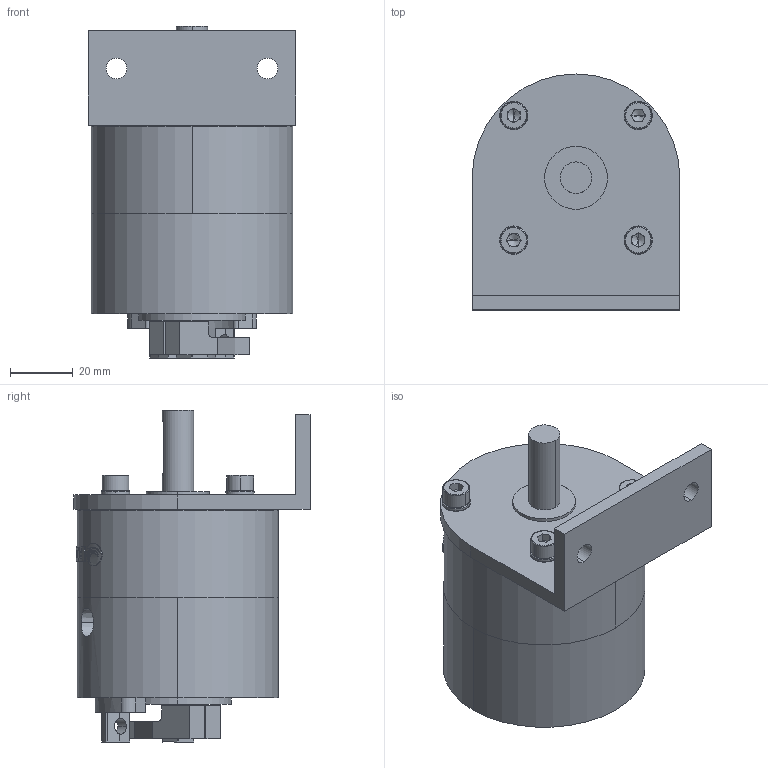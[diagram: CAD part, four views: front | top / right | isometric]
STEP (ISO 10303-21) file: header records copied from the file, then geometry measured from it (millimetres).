
FILE_DESCRIPTION (( 'STEP AP203' ), '1' );
FILE_NAME ('PRO30S_D-#-#-L1.STEP', '2016-02-04T06:54:29', ( 'Sam Lin' ), ( '' ), 'SwSTEP 2.0', 'SolidWorks 2013', '' );
FILE_SCHEMA (( 'CONFIG_CONTROL_DESIGN' ));
Length unit declared in the file: metre
Products named in the file (10): PROA30D-#-# (5); PROA30D-#-# (7); mark-PROA30S; PROA30D-#-#-L1 (6); ISO 4762 M5 x 10; PROA30D-#-# (2); PROA30D-#-# (3); M5墊片T=1.3; PROA30D-#-# (1); PRO30S_D-#-#-L1
Assembly tree (15 placements, depth 2):
  PRO30S_D-#-#-L1
    PROA30D-#-# (2)
    PROA30D-#-# (3)
    PROA30D-#-# (1)
    PROA30D-#-# (5)
    PROA30D-#-# (7)
    mark-PROA30S
    PROA30D-#-#-L1 (6)
    ISO 4762 M5 x 10  x4
    M5墊片T=1.3  x4
Bounding box: 66 x 75 x 105.5 mm (x, y, z)
Volume: 227937.6 mm3; surface area: 53733.7 mm2
Topology: 22 solids, 22 shells, 520 faces, 1246 edges, 808 vertices
Faces by surface type: plane 223, cylinder 204, bspline 67, cone 26
Entity records: 17980 total; most frequent: CARTESIAN_POINT 7034, DIRECTION 2064, ORIENTED_EDGE 1976, EDGE_CURVE 988, AXIS2_PLACEMENT_3D 798, VERTEX_POINT 655, EDGE_LOOP 495, LINE 468
